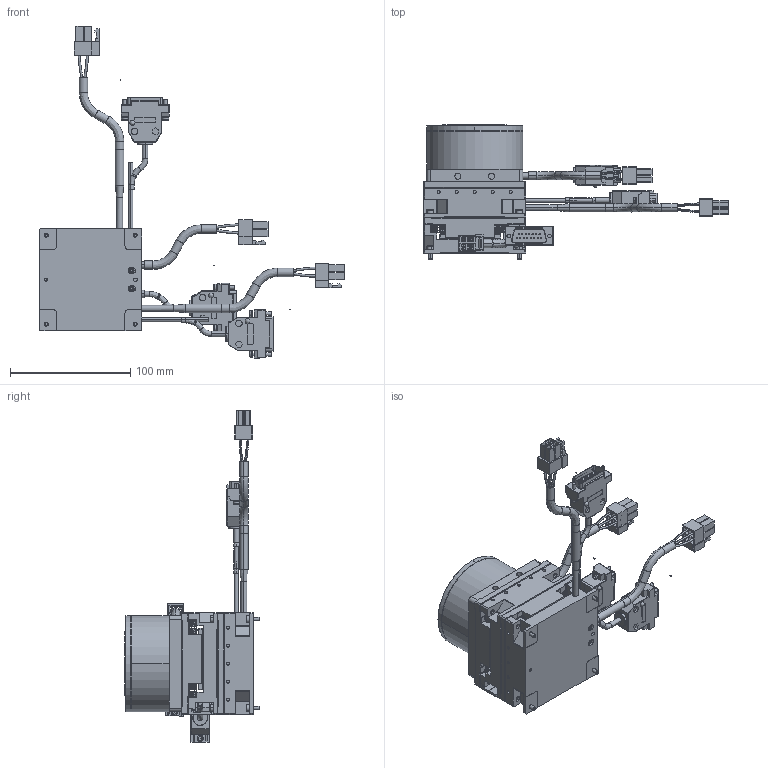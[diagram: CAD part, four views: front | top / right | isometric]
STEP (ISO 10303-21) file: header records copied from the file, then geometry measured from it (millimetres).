
FILE_DESCRIPTION (( 'STEP AP203' ), '1' );
FILE_NAME ('PMM85-20 XYR粣耀郪(妀蚚3D紫).STEP', '2025-01-10T03:44:07', ( '' ), ( '' ), 'SwSTEP 2.0', 'SolidWorks 2022', '' );
FILE_SCHEMA (( 'CONFIG_CONTROL_DESIGN' ));
Length unit declared in the file: millimetre
Products named in the file (1): PMM85-20 XYR轴模组(商用3D档)
Bounding box: 253.5 x 112 x 276.23 mm (x, y, z)
Surface area: 148312.4 mm2 (no closed solid volume)
Topology: 0 solids, 128 shells, 1751 faces, 7755 edges, 6021 vertices
Faces by surface type: plane 1027, cylinder 480, bspline 187, torus 28, cone 24, sphere 5
Entity records: 90059 total; most frequent: CARTESIAN_POINT 30208, DIRECTION 11348, ORIENTED_EDGE 11323, EDGE_CURVE 7641, VERTEX_POINT 6015, LINE 4656, VECTOR 4656, AXIS2_PLACEMENT_3D 3346
